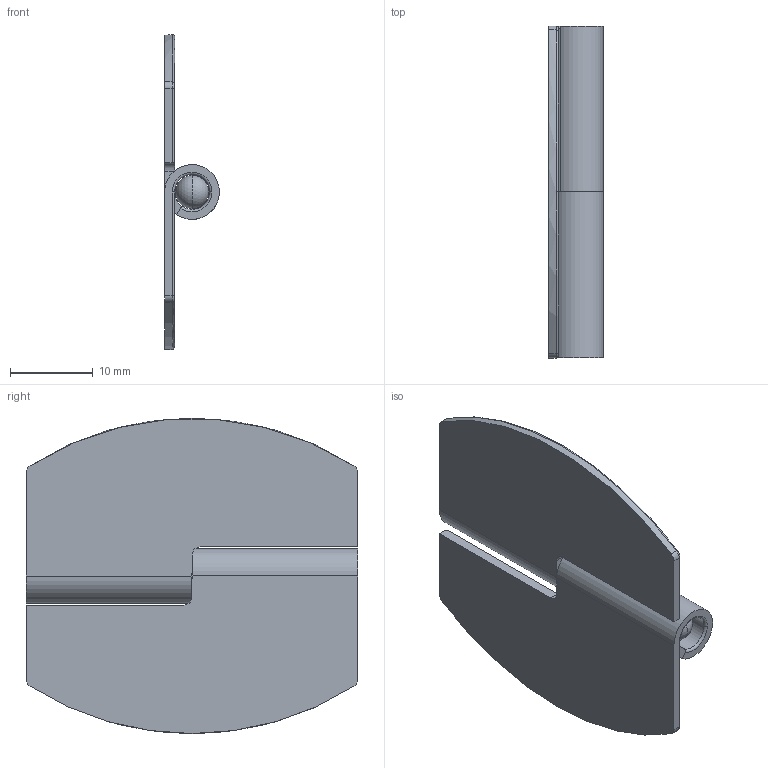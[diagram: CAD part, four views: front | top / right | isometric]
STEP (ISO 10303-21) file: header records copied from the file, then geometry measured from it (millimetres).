
FILE_DESCRIPTION (( 'STEP AP203' ), '1' );
FILE_NAME ('DEH-38-3L.STEP', '2013-08-14T06:41:46', ( '中村　妙子' ), ( 'ＮＴ設計' ), 'SwSTEP 2.0', 'SolidWorks 2002296', '' );
FILE_SCHEMA (( 'CONFIG_CONTROL_DESIGN' ));
Length unit declared in the file: millimetre
Products named in the file (3): DEH-38-3L; DEH-38-3L-1_蹬怮椔; DEH-38-3L-2_蹬怮椔
Assembly tree (2 placements, depth 2):
  DEH-38-3L
    DEH-38-3L-1_蹬怮椔
    DEH-38-3L-2_蹬怮椔
Bounding box: 6.6 x 40 x 38 mm (x, y, z)
Volume: 2388.5 mm3; surface area: 4161 mm2
Topology: 3 solids, 3 shells, 47 faces, 116 edges, 73 vertices
Faces by surface type: cylinder 19, plane 15, torus 11, sphere 2
Entity records: 1704 total; most frequent: DIRECTION 283, CARTESIAN_POINT 239, ORIENTED_EDGE 228, AXIS2_PLACEMENT_3D 117, EDGE_CURVE 114, VERTEX_POINT 73, CIRCLE 65, LINE 49
